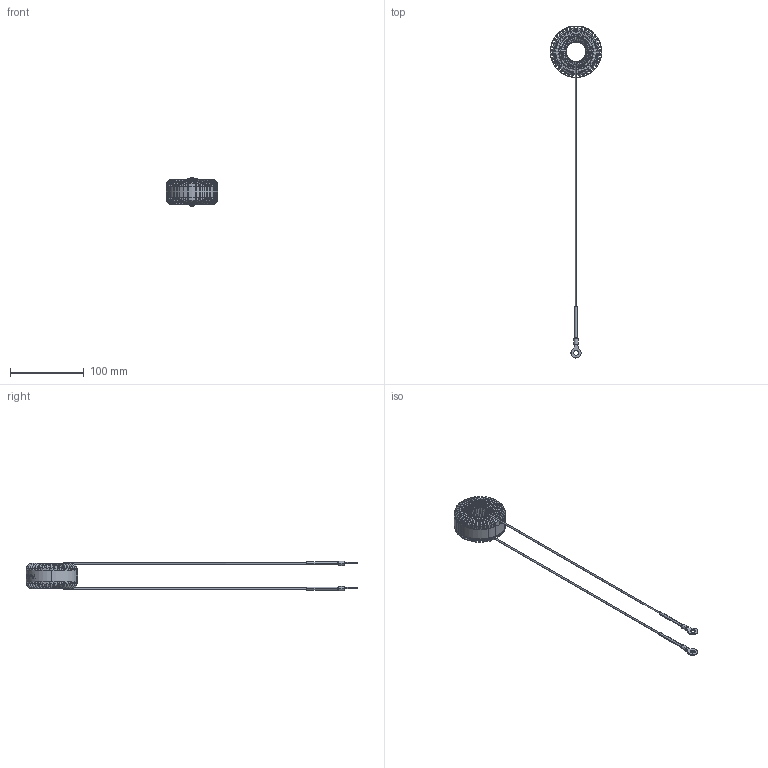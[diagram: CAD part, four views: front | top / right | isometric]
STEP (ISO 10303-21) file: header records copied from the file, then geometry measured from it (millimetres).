
FILE_DESCRIPTION (( 'STEP AP214' ), '1' );
FILE_NAME ('CWS-1SN-13004.STEP', '2021-03-02T07:03:46', ( '' ), ( '' ), 'SwSTEP 2.0', 'SolidWorks 2015', '' );
FILE_SCHEMA (( 'AUTOMOTIVE_DESIGN' ));
Length unit declared in the file: millimetre
Products named in the file (5): CWS-1SN-13004; SLEEVE; WINDING; CORE; WRAPPER
Assembly tree (5 placements, depth 2):
  CWS-1SN-13004
    CORE
    WINDING
    SLEEVE  x2
    WRAPPER
Bounding box: 70.11 x 450.92 x 40.12 mm (x, y, z)
Volume: 81929.2 mm3; surface area: 53760.4 mm2
Topology: 48 solids, 48 shells, 1012 faces, 2674 edges, 1776 vertices
Faces by surface type: cylinder 446, torus 324, plane 139, bspline 103
Entity records: 45091 total; most frequent: CARTESIAN_POINT 17070, DIRECTION 5964, ORIENTED_EDGE 5288, AXIS2_PLACEMENT_3D 2752, EDGE_CURVE 2644, CIRCLE 1850, VERTEX_POINT 1758, EDGE_LOOP 1024
